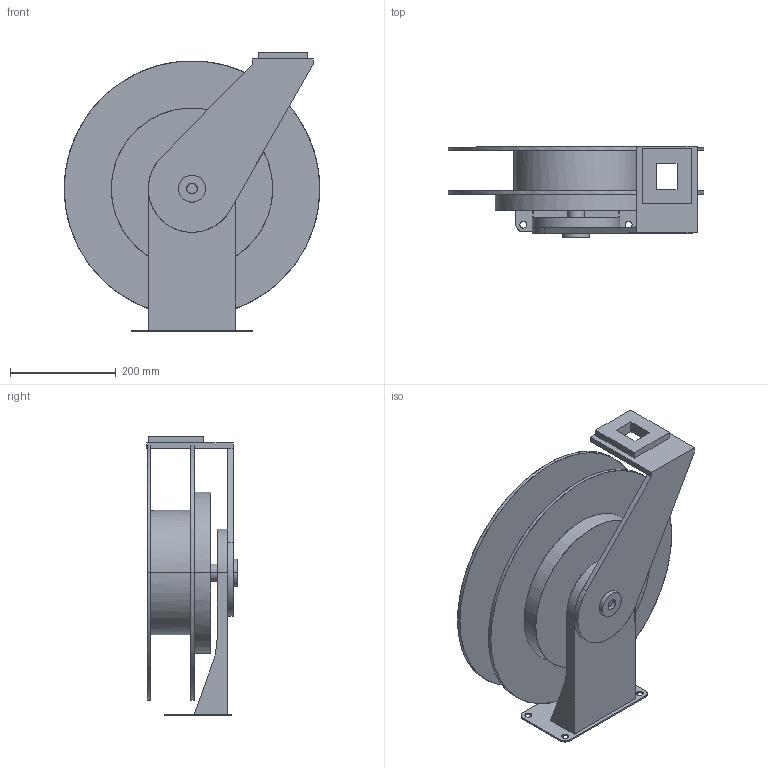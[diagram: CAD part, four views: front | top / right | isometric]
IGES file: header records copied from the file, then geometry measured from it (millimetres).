
Start section: Comment
Global section: file name: 7000 OLP TW.igs; native system:  By UGS Corp.; preprocessor: XPlus GENERIC/IGES 3.0; author: Author; organization: Title; date: 20120809.154945; units: millimetre
Bounding box: 482.6 x 171.45 x 527.84 mm (x, y, z)
Surface area: 1155597.4 mm2 (no closed solid volume)
Topology: 0 solids, 0 shells, 137 faces, 664 edges, 664 vertices
Faces by surface type: bspline 137
